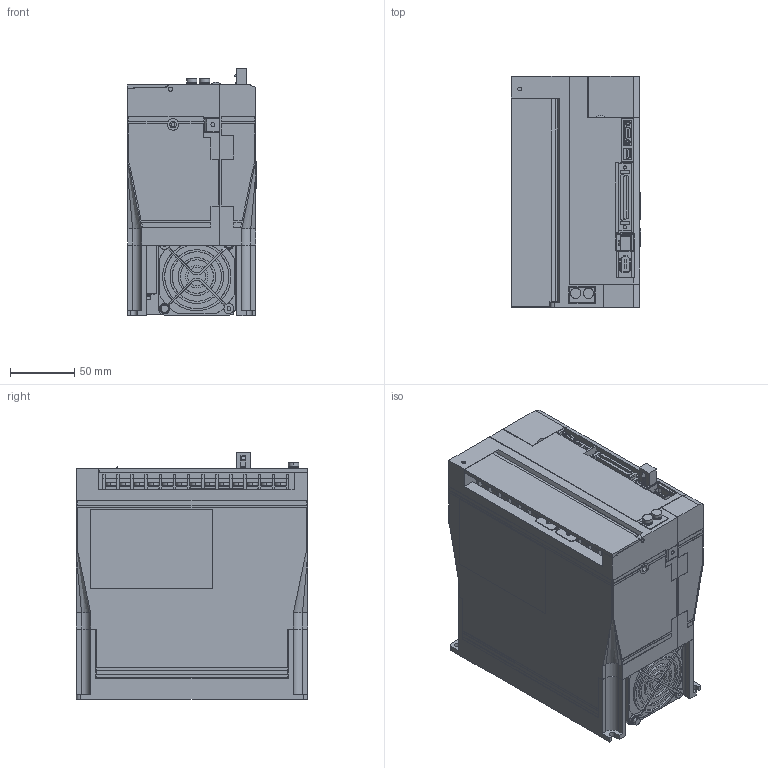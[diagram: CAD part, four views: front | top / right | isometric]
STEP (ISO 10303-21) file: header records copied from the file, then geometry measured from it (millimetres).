
FILE_DESCRIPTION (( 'STEP AP203' ), '1' );
FILE_NAME ('sgdv_200a0_a.STEP', '2008-06-17T08:22:05', ( 'T' ), ( 'T' ), 'SwSTEP 2.0', 'SolidWorks 2006052', '' );
FILE_SCHEMA (( 'CONFIG_CONTROL_DESIGN' ));
Products named in the file (7): sgdv_200a0_a_connector; sgdv_200a0_a_cover3; sgdv_200a0_a; sgdv_200a0_a_base; sgdv_200a0_a_cover; sgdv_200a0_a_cover2; sgdv_200a0_a_terminal
Assembly tree (8 placements, depth 2):
  sgdv_200a0_a
    sgdv_200a0_a_terminal  x2
    sgdv_200a0_a_cover
    sgdv_200a0_a_cover3
    sgdv_200a0_a_connector
    sgdv_200a0_a_cover2  x2
    sgdv_200a0_a_base
Bounding box: 100.5 x 180 x 193 mm (x, y, z)
Volume: 2890788.9 mm3; surface area: 240819.1 mm2
Topology: 8 solids, 8 shells, 2046 faces, 5424 edges, 3564 vertices
Faces by surface type: plane 1653, cylinder 372, cone 12, bspline 8, sphere 1
Entity records: 62749 total; most frequent: CARTESIAN_POINT 11346, ORIENTED_EDGE 10632, DIRECTION 10132, EDGE_CURVE 5316, VECTOR 4436, LINE 4436, VERTEX_POINT 3492, AXIS2_PLACEMENT_3D 2848
